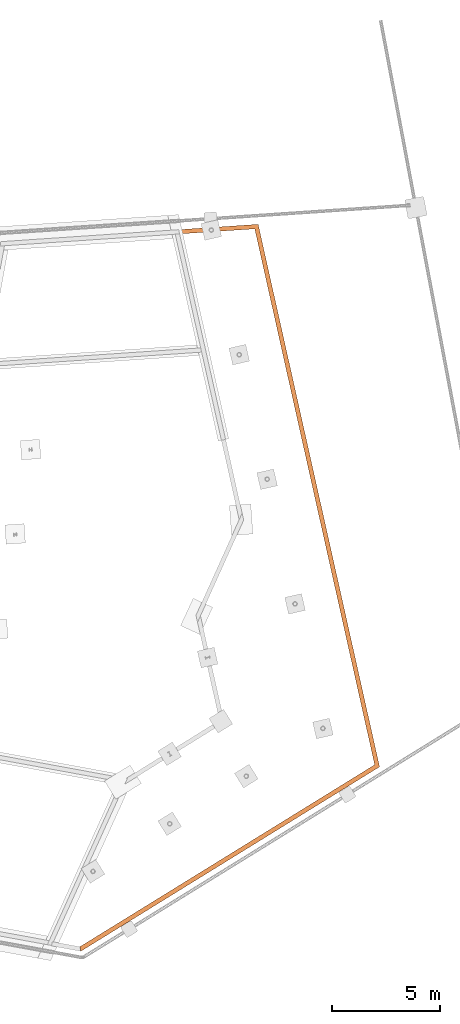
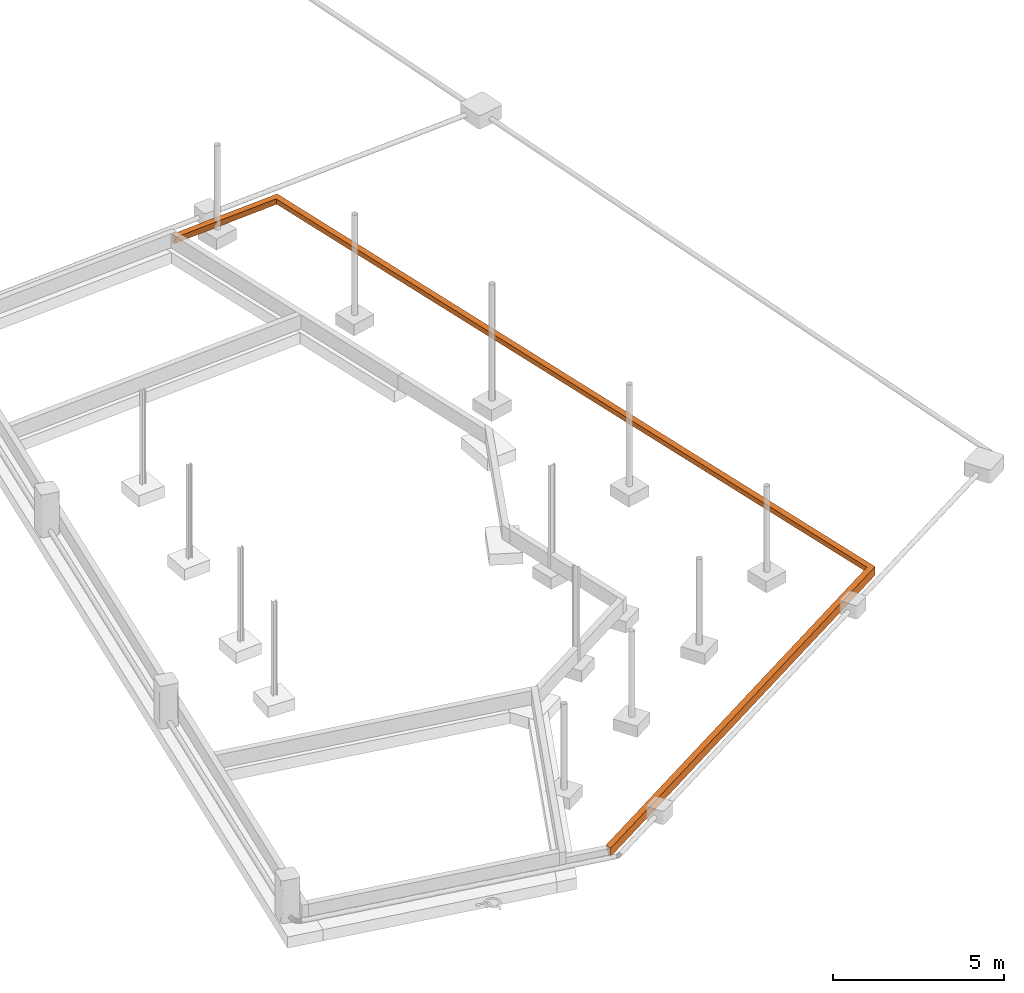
# One storey, part 17 of 17: 1 proxy.
"""IFC2X3 building model written with IfcOpenShell, lengths in centimetres."""

from ifc_helpers import new_model, entity, si_unit, converted_unit, derived_unit, direction, frame, origin, place, context, subcontext, project, spatial, faceted_brep, element, save


model = new_model("IFC2X3")

# Units and contexts
model_context = context("Model", 3, precision=0.001, world=origin(), true_north=direction((6.12303176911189e-17, 1.0)))
body_context = subcontext(model_context, "Body", "Model", "MODEL_VIEW")
ifc_project = project(units=[si_unit("LENGTHUNIT", "METRE", prefix="CENTI"), si_unit("AREAUNIT", "SQUARE_METRE"), si_unit("VOLUMEUNIT", "CUBIC_METRE"), converted_unit("PLANEANGLEUNIT", "DEGREE", entity("IfcRatioMeasure", 0.0174532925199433), si_unit("PLANEANGLEUNIT", "RADIAN"), dimensions=[0, 0, 0, 0, 0, 0, 0]), si_unit("MASSUNIT", "GRAM", prefix="KILO"), derived_unit("MASSDENSITYUNIT", [(si_unit("MASSUNIT", "GRAM", prefix="KILO"), 1), (si_unit("LENGTHUNIT", "METRE"), -3)]), si_unit("TIMEUNIT", "SECOND"), si_unit("FREQUENCYUNIT", "HERTZ"), si_unit("THERMODYNAMICTEMPERATUREUNIT", "DEGREE_CELSIUS"), derived_unit("THERMALTRANSMITTANCEUNIT", [(si_unit("MASSUNIT", "GRAM", prefix="KILO"), 1), (si_unit("THERMODYNAMICTEMPERATUREUNIT", "KELVIN"), -1), (si_unit("TIMEUNIT", "SECOND"), -3)]), derived_unit("VOLUMETRICFLOWRATEUNIT", [(si_unit("LENGTHUNIT", "METRE"), 3), (si_unit("TIMEUNIT", "SECOND"), -1)]), si_unit("ELECTRICCURRENTUNIT", "AMPERE"), si_unit("ELECTRICVOLTAGEUNIT", "VOLT"), si_unit("POWERUNIT", "WATT"), si_unit("FORCEUNIT", "NEWTON", prefix="KILO"), si_unit("ILLUMINANCEUNIT", "LUX"), si_unit("LUMINOUSFLUXUNIT", "LUMEN"), si_unit("LUMINOUSINTENSITYUNIT", "CANDELA"), derived_unit("USERDEFINED", [(si_unit("MASSUNIT", "GRAM", prefix="KILO"), -1), (si_unit("LENGTHUNIT", "METRE"), -2), (si_unit("TIMEUNIT", "SECOND"), 3), (si_unit("LUMINOUSFLUXUNIT", "LUMEN"), 1)]), derived_unit("LINEARVELOCITYUNIT", [(si_unit("LENGTHUNIT", "METRE"), 1), (si_unit("TIMEUNIT", "SECOND"), -1)]), si_unit("PRESSUREUNIT", "PASCAL"), derived_unit("USERDEFINED", [(si_unit("LENGTHUNIT", "METRE"), -2), (si_unit("MASSUNIT", "GRAM", prefix="KILO"), 1), (si_unit("TIMEUNIT", "SECOND"), -2)])], contexts=[model_context])

# Site, building, storey
site_placement = place(None, frame((2611.71187422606, 13650.4058644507, 0.0), z_axis=(0.0, 0.0, 1.0), x_axis=(0.0673222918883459, -0.997731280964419, 0.0)))
site = spatial("IfcSite", under=ifc_project, at=site_placement, Name="Surface", CompositionType="ELEMENT")
building_placement = place(site_placement, origin())
building = spatial("IfcBuilding", under=site, at=building_placement, CompositionType="ELEMENT")
storey_placement = place(building_placement, frame((0.0, 0.0, 86950.0)))
storey = spatial("IfcBuildingStorey", under=building, at=storey_placement, Name="-1 Soubassement", CompositionType="ELEMENT", Elevation=86950.0)

# Proxy
proxy_placement = place(storey_placement, frame((1945.16644128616, 342.898093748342, 0.0)))
element("IfcBuildingElementProxy", 1, at=proxy_placement, inside=storey, Name="Bord de dalle:Be1", ObjectType="Bord de dalle:Be1", context=body_context, shape_type="Brep", body=[
    faceted_brep([(2550.87931556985, 1444.15827598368, 30.0), (2550.87931556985, 1444.15827598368, 0.0), (0.0, 1051.33670352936, 0.0), (0.0, 1051.33670352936, 30.0), (2539.84335166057, 1422.22304363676, 30.0), (20.0, 1034.18084121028, 30.0), (2546.37780397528, 1435.21101015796, 0.0), (8.15789473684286, 1044.33891758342, 0.0), (3311.93012285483, 2.53572587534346, 0.0), (3311.93012285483, 2.53572587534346, 30.0), (3290.65291371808, 0.0, 30.0), (3303.25126123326, 1.50141663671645, 0.0), (0.0, 682.671416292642, 0.0), (8.15789473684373, 682.671416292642, 0.0), (20.0, 682.671416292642, 30.0), (0.0, 682.671416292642, 30.0)], [[[0, 1, 2, 3]], [[4, 0, 3, 5]], [[6, 4, 5, 7]], [[1, 6, 7, 2]], [[8, 9, 10, 11]], [[9, 8, 1, 0]], [[10, 9, 0, 4]], [[11, 10, 4, 6]], [[8, 11, 6, 1]], [[12, 13, 14, 15]], [[3, 2, 12, 15]], [[5, 3, 15, 14]], [[7, 5, 14, 13]], [[2, 7, 13, 12]]]),
])

save(model, "model.ifc")
